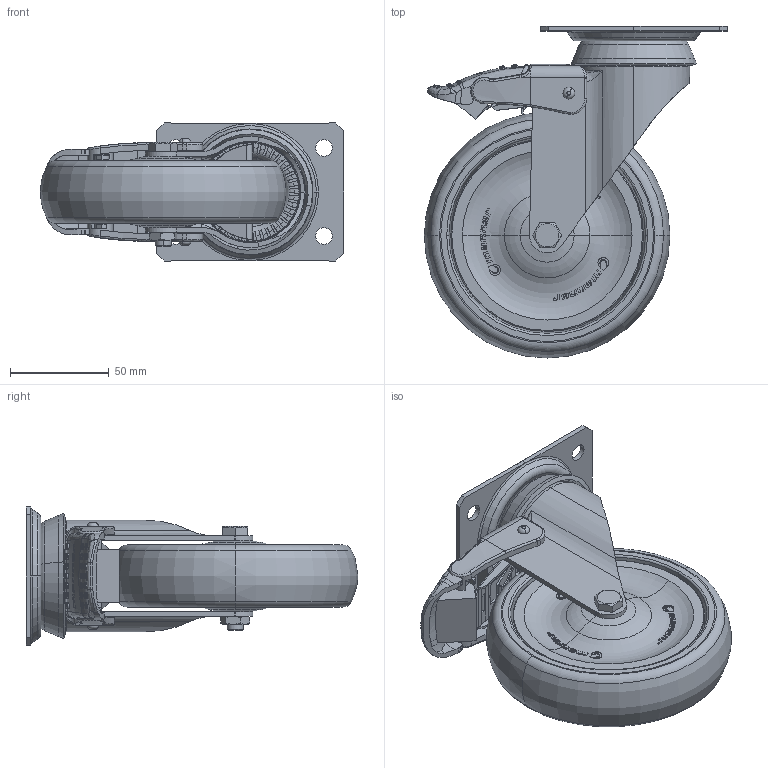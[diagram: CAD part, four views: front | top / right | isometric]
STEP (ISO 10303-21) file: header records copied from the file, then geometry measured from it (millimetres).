
FILE_DESCRIPTION (( 'STEP AP203' ), '1' );
FILE_NAME ('300859_STEP.STEP', '2013-07-30T10:29:35', ( 'admin' ), ( 'Hewlett-Packard Company' ), 'SwSTEP 2.0', 'SolidWorks 2011', '' );
FILE_SCHEMA (( 'CONFIG_CONTROL_DESIGN' ));
Length unit declared in the file: millimetre
Products named in the file (1): 300859_STEP
Bounding box: 153.75 x 168.27 x 70 mm (x, y, z)
Volume: 296396.6 mm3; surface area: 184593.9 mm2
Topology: 19 solids, 19 shells, 2459 faces, 6621 edges, 4308 vertices
Faces by surface type: plane 1195, cylinder 586, bspline 417, torus 164, cone 91, sphere 6
Entity records: 108030 total; most frequent: CARTESIAN_POINT 54015, ORIENTED_EDGE 13228, DIRECTION 8068, EDGE_CURVE 6614, VERTEX_POINT 4308, B_SPLINE_CURVE_WITH_KNOTS 3236, AXIS2_PLACEMENT_3D 2831, EDGE_LOOP 2634
